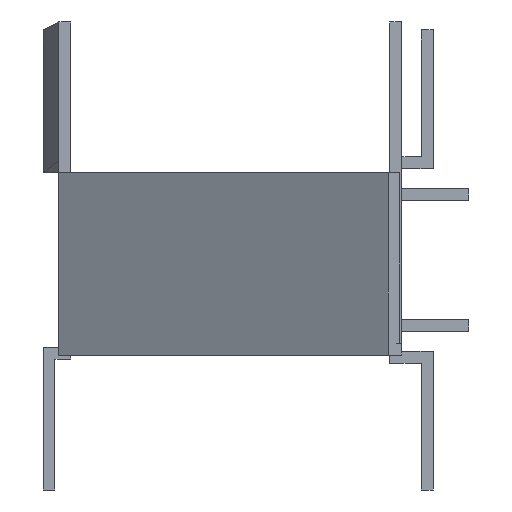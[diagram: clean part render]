
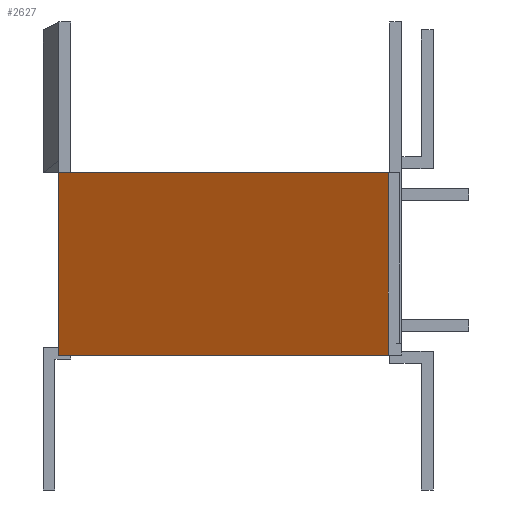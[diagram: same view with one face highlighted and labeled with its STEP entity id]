
A CAD part, front view. The second image highlights one B-rep face of the part: STEP entity #2627.
In plain terms, the highlighted planar face has unit normal (-0.508, -0.861, 0).
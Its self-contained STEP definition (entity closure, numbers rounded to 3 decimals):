
#285=FACE_OUTER_BOUND('',#448,.T.);
#448=EDGE_LOOP('',(#2011,#2012,#2013,#2014));
#702=LINE('',#3898,#979);
#713=LINE('',#3915,#990);
#738=LINE('',#4025,#1015);
#739=LINE('',#4026,#1016);
#979=VECTOR('',#3121,10.);
#990=VECTOR('',#3134,10.);
#1015=VECTOR('',#3233,10.);
#1016=VECTOR('',#3234,10.);
#1238=VERTEX_POINT('',#3895);
#1239=VERTEX_POINT('',#3897);
#1244=VERTEX_POINT('',#3913);
#1292=VERTEX_POINT('',#4024);
#1503=EDGE_CURVE('',#1238,#1239,#702,.T.);
#1514=EDGE_CURVE('',#1238,#1244,#713,.T.);
#1569=EDGE_CURVE('',#1292,#1239,#738,.T.);
#1570=EDGE_CURVE('',#1292,#1244,#739,.T.);
#2011=ORIENTED_EDGE('',*,*,#1569,.T.);
#2012=ORIENTED_EDGE('',*,*,#1503,.F.);
#2013=ORIENTED_EDGE('',*,*,#1514,.T.);
#2014=ORIENTED_EDGE('',*,*,#1570,.F.);
#2544=PLANE('',#2804);
#2627=ADVANCED_FACE('',(#285),#2544,.F.);
#2804=AXIS2_PLACEMENT_3D('',#4023,#3231,#3232);
#3121=DIRECTION('',(-0.861,0.508,0.));
#3134=DIRECTION('',(0.,0.,1.));
#3231=DIRECTION('center_axis',(0.508,0.861,0.));
#3232=DIRECTION('ref_axis',(0.,0.,-1.));
#3233=DIRECTION('',(0.,0.,-1.));
#3234=DIRECTION('',(0.861,-0.508,0.));
#3895=CARTESIAN_POINT('',(40.389,-31.103,-2.));
#3897=CARTESIAN_POINT('',(-1.111,-6.603,-2.));
#3898=CARTESIAN_POINT('',(-1.111,-6.603,-2.));
#3913=CARTESIAN_POINT('',(40.389,-31.103,21.));
#3915=CARTESIAN_POINT('',(40.389,-31.103,21.));
#4023=CARTESIAN_POINT('Origin',(-1.111,-6.603,-1.));
#4024=CARTESIAN_POINT('',(-1.111,-6.603,21.));
#4025=CARTESIAN_POINT('',(-1.111,-6.603,5.5));
#4026=CARTESIAN_POINT('',(-1.111,-6.603,21.));
